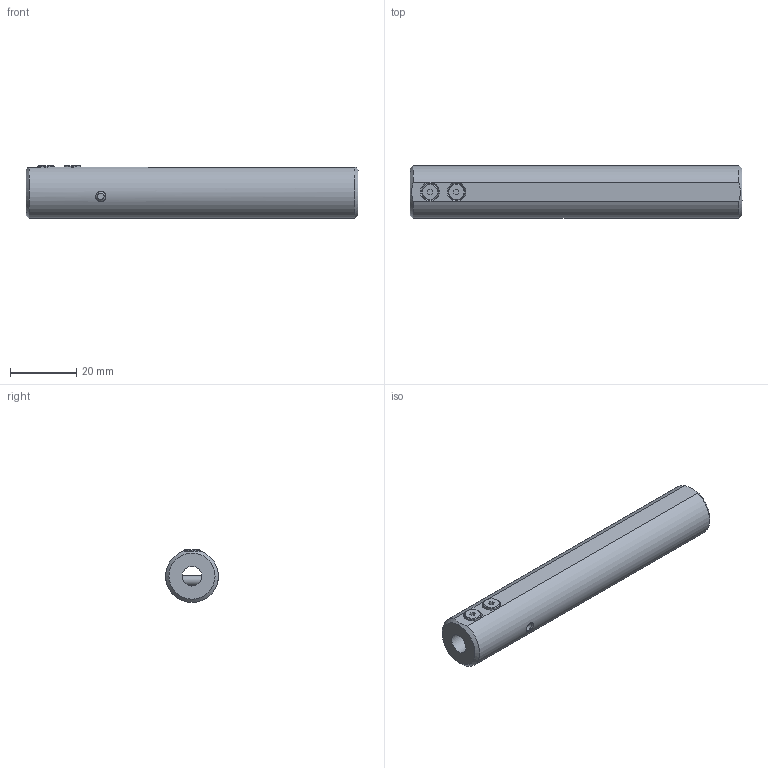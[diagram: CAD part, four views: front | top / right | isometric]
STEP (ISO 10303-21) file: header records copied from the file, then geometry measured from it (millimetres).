
FILE_DESCRIPTION(/* description */ (''),/* implementation_level */ '2;1');
FILE_NAME(/* name */ 'WEBDA_E00021499_00_Kunde.stp',/* time_stamp */ '2021-08-26T09:58:57+02:00',/* author */ (''),/* organization */ (''),/* preprocessor_version */ 'ST-DEVELOPER v16',/* originating_system */ 'SIEMENS PLM Software NX 11.0',/* authorisation */ '');
FILE_SCHEMA (('AUTOMOTIVE_DESIGN { 1 0 10303 214 3 1 1 1 }'));
Length unit declared in the file: millimetre
Products named in the file (1): ja.h3B102D68fmil
Bounding box: 100 x 15.88 x 15.94 mm (x, y, z)
Volume: 14597.7 mm3; surface area: 7857.5 mm2
Topology: 1 solids, 1 shells, 55 faces, 131 edges, 87 vertices
Faces by surface type: plane 29, cylinder 16, cone 10
Full cylindrical faces by diameter (mm): 3 x1, 3.01 x2, 3.1 x4, 5 x2, 6 x1, 8.6 x1
Entity records: 1830 total; most frequent: CARTESIAN_POINT 696, DIRECTION 218, ORIENTED_EDGE 190, EDGE_CURVE 95, EDGE_LOOP 90, AXIS2_PLACEMENT_3D 88, VERTEX_POINT 73, FACE_BOUND 65
